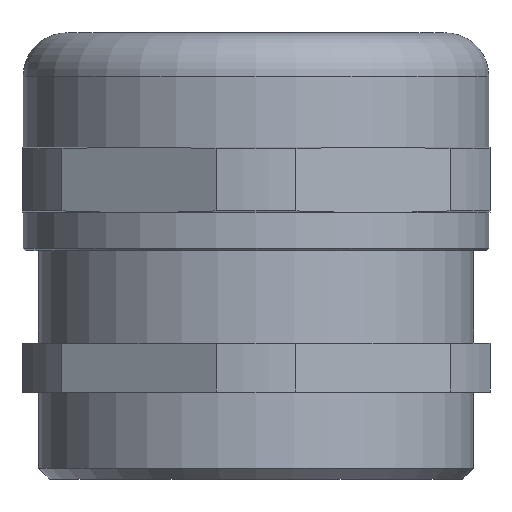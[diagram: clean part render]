
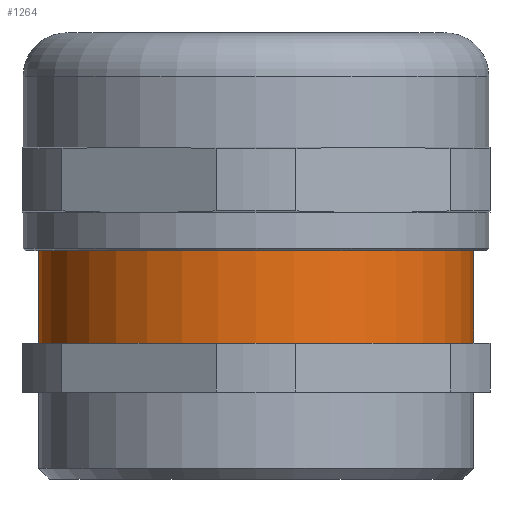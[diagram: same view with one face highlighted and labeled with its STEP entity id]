
A CAD part, front view. The second image highlights one B-rep face of the part: STEP entity #1264.
In plain terms, the highlighted cylindrical face has radius 20 mm (diameter 40 mm), a partial arc.
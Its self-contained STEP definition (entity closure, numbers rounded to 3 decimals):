
#729 = DIRECTION ( 'NONE',  ( 0., 0., -1. ) ) ;
#730 = VECTOR ( 'NONE', #729, 1000. ) ;
#731 = CARTESIAN_POINT ( 'NONE',  ( -20., 0., 0. ) ) ;
#732 = LINE ( 'NONE', #731, #730 ) ;
#800 = CARTESIAN_POINT ( 'NONE',  ( -20., 0., 12.5 ) ) ;
#808 = CARTESIAN_POINT ( 'NONE',  ( 20., 0., 12.5 ) ) ;
#809 = DIRECTION ( 'NONE',  ( 0., 0., -1. ) ) ;
#810 = VECTOR ( 'NONE', #809, 1000. ) ;
#811 = CARTESIAN_POINT ( 'NONE',  ( 20., 0., 0. ) ) ;
#812 = LINE ( 'NONE', #811, #810 ) ;
#818 = CARTESIAN_POINT ( 'NONE',  ( 20., 0., 21. ) ) ;
#819 = CARTESIAN_POINT ( 'NONE',  ( -20., 0., 21. ) ) ;
#1260 = ORIENTED_EDGE ( 'NONE', *, *, #2070, .F. ) ;
#1261 = ORIENTED_EDGE ( 'NONE', *, *, #1268, .T. ) ;
#1264 = ADVANCED_FACE ( 'NONE', ( #2284 ), #2285, .T. ) ;
#1265 = ORIENTED_EDGE ( 'NONE', *, *, #1279, .F. ) ;
#1268 = EDGE_CURVE ( 'NONE', #2075, #2074, #2391, .T. ) ;
#1269 = ORIENTED_EDGE ( 'NONE', *, *, #2058, .T. ) ;
#1274 = EDGE_LOOP ( 'NONE', ( #1260, #1261, #1269, #1265 ) ) ;
#1279 = EDGE_CURVE ( 'NONE', #2071, #2060, #2387, .T. ) ;
#2058 = EDGE_CURVE ( 'NONE', #2074, #2060, #732, .T. ) ;
#2060 = VERTEX_POINT ( 'NONE', #800 ) ;
#2070 = EDGE_CURVE ( 'NONE', #2075, #2071, #812, .T. ) ;
#2071 = VERTEX_POINT ( 'NONE', #808 ) ;
#2074 = VERTEX_POINT ( 'NONE', #819 ) ;
#2075 = VERTEX_POINT ( 'NONE', #818 ) ;
#2284 = FACE_OUTER_BOUND ( 'NONE', #1274, .T. ) ;
#2285 = CYLINDRICAL_SURFACE ( 'NONE', #2297, 20. ) ;
#2295 = DIRECTION ( 'NONE',  ( 0., 0., -1. ) ) ;
#2296 = CARTESIAN_POINT ( 'NONE',  ( 0., 0., 0. ) ) ;
#2297 = AXIS2_PLACEMENT_3D ( 'NONE', #2296, #2295, #2298 ) ;
#2298 = DIRECTION ( 'NONE',  ( -1., 0., 0. ) ) ;
#2308 = DIRECTION ( 'NONE',  ( 0., 0., -1. ) ) ;
#2309 = CARTESIAN_POINT ( 'NONE',  ( 0., 0., 12.5 ) ) ;
#2310 = AXIS2_PLACEMENT_3D ( 'NONE', #2309, #2308, #2312 ) ;
#2312 = DIRECTION ( 'NONE',  ( -1., 0., 0. ) ) ;
#2364 = DIRECTION ( 'NONE',  ( -1., 0., 0. ) ) ;
#2365 = CARTESIAN_POINT ( 'NONE',  ( 0., 0., 21. ) ) ;
#2366 = DIRECTION ( 'NONE',  ( 0., 0., -1. ) ) ;
#2387 = CIRCLE ( 'NONE', #2310, 20. ) ;
#2389 = AXIS2_PLACEMENT_3D ( 'NONE', #2365, #2366, #2364 ) ;
#2391 = CIRCLE ( 'NONE', #2389, 20. ) ;
